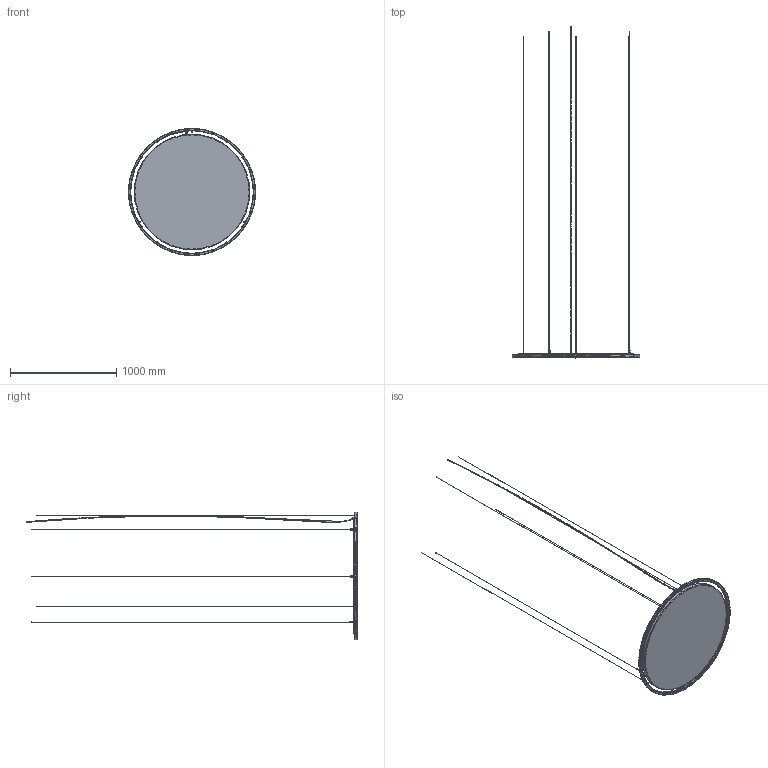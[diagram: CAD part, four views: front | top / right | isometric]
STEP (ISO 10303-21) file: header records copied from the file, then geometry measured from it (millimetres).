
FILE_DESCRIPTION (( 'STEP AP203' ), '1' );
FILE_NAME ('SPULA120-SOUND ABSORBING.STEP', '2023-09-25T15:34:41', ( '' ), ( '' ), 'SwSTEP 2.0', 'SolidWorks 2023', '' );
FILE_SCHEMA (( 'CONFIG_CONTROL_DESIGN' ));
Length unit declared in the file: millimetre
Products named in the file (19): ULIGHT120_S; TANG YAO-7727-P215 + RIV TESSILE 33-PER ANELLI; Sospensione; WS0T21024---------; WSCM2D0019-0733-00; ISO7046_M4_H12; socket button head screw_iso_ISO 7380 - M4 x 8 --- 8N; WSA5068-03-6-0-11-; WSCM2A0026-0248-00; WSCM1I0008-0242-00; WSCA01193000B3028A; WSCM1I0006-0242-00; Pannelli Definitivi Tappezziere_PANNELLO SPULA 120-160-180 Ø1090mm H40-45mm; WSCM2A0022-0733-00; PANNELLI TAPPEZZIERE DEFINITIVI_PANULA1093540AV; WSCM1I0007-0242-00; WSCP2F0005-0403-00; WSCA01193000B2830B; SPULA120-SOUND ABSORBING
Assembly tree (36 placements, depth 4):
  SPULA120-SOUND ABSORBING
    ULIGHT120_S
      WSCM2D0019-0733-00
      WS0T21024---------  x3
      WSCM2A0022-0733-00
      WSA5068-03-6-0-11-
      WSCP2F0005-0403-00  x5
      TANG YAO-7727-P215 + RIV TESSILE 33-PER ANELLI
      Sospensione  x3
        WSCM2A0026-0248-00
        socket button head screw_iso_ISO 7380 - M4 x 8 --- 8N
        WSCA01193000B3028A
    Pannelli Definitivi Tappezziere_PANNELLO SPULA 120-160-180 Ø1090mm H40-45mm
      PANNELLI TAPPEZZIERE DEFINITIVI_PANULA1093540AV
      ISO7046_M4_H12  x3
      WSCM1I0006-0242-00  x3
      WSCM1I0007-0242-00  x3
      WSCM1I0008-0242-00  x3
      WSCA01193000B2830B  x3
Bounding box: 1200 x 3128.63 x 1200 mm (x, y, z)
Volume: 33368648.2 mm3; surface area: 7675284.8 mm2
Topology: 40 solids, 40 shells, 1370 faces, 3313 edges, 2100 vertices
Faces by surface type: plane 549, cylinder 503, cone 187, torus 87, bspline 32, sphere 12
Entity records: 33227 total; most frequent: CARTESIAN_POINT 15500, DIRECTION 3274, ORIENTED_EDGE 3144, EDGE_CURVE 1572, AXIS2_PLACEMENT_3D 1312, VERTEX_POINT 991, EDGE_LOOP 753, ADVANCED_FACE 656
